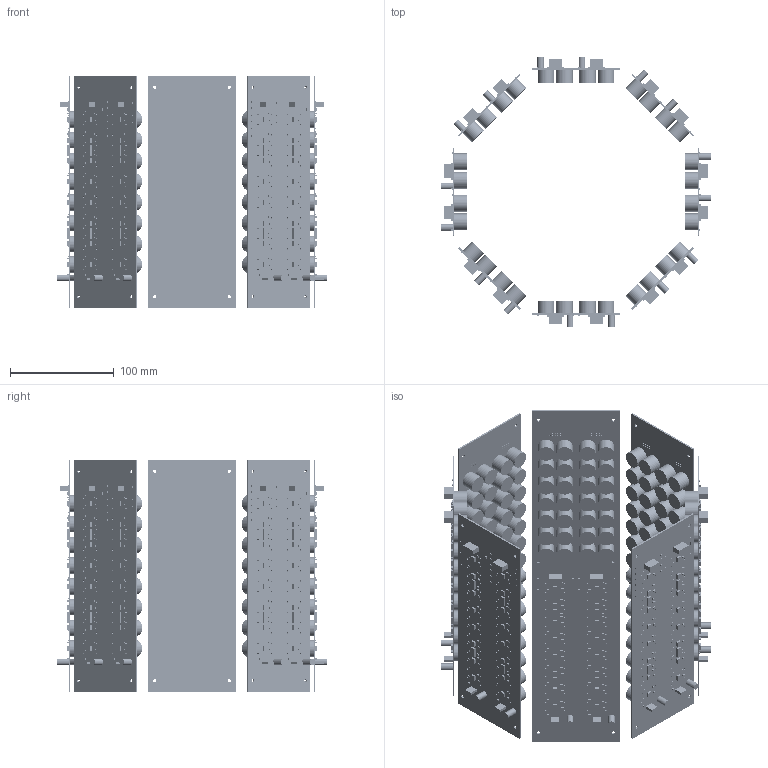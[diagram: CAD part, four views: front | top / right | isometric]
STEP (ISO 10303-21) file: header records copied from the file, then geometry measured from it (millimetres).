
FILE_DESCRIPTION(('Open CASCADE Model'),'2;1');
FILE_NAME('Open CASCADE Shape Model','2026-10-06T14:39:53',('Author'),( 'Open CASCADE'),'Open CASCADE STEP processor 7.9','Open CASCADE 7.9' ,'Unknown');
FILE_SCHEMA(('AUTOMOTIVE_DESIGN { 1 0 10303 214 1 1 1 1 }'));
Length unit declared in the file: millimetre
Products named in the file (19): tunnel8_32_r1; face0; pcb32_r1; C1; C19; J1; J3; Q1; R1; T1; U1; U10; face1; face2; face3; face4; face5; face6; face7
Assembly tree (1200 placements, depth 3):
  tunnel8_32_r1
    face0
      pcb32_r1
      C1  x38
      C19  x2
      J1  x2
      J3  x2
      Q1  x2
      R1  x50
      T1  x32
      U1  x4
      U10  x16
    face1
      pcb32_r1
      C1  x38
      C19  x2
      J1  x2
      J3  x2
      Q1  x2
      R1  x50
      T1  x32
      U1  x4
      U10  x16
    face2
      pcb32_r1
      C1  x38
      C19  x2
      J1  x2
      J3  x2
      Q1  x2
      R1  x50
      T1  x32
      U1  x4
      U10  x16
    face3
      pcb32_r1
      C1  x38
      C19  x2
      J1  x2
      J3  x2
      Q1  x2
      R1  x50
      T1  x32
      U1  x4
      U10  x16
    face4
      pcb32_r1
      C1  x38
      C19  x2
      J1  x2
      J3  x2
      Q1  x2
      R1  x50
      T1  x32
      U1  x4
      U10  x16
    face5
      pcb32_r1
      C1  x38
      C19  x2
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Bounding box: 260.2 x 260.2 x 224 mm (x, y, z)
Volume: 907053.5 mm3; surface area: 611047.1 mm2
Topology: 1192 solids, 1192 shells, 7120 faces, 14208 edges, 9472 vertices
Faces by surface type: plane 6064, cylinder 1056
Full cylindrical faces by diameter (mm): 0.8 x32, 1 x208, 1.5 x512, 3.2 x32, 6.3 x16, 16 x256
Entity records: 20747 total; most frequent: CARTESIAN_POINT 3981, DIRECTION 3898, AXIS2_PLACEMENT_3D 1553, PRODUCT_DEFINITION_SHAPE 1219, CONTEXT_DEPENDENT_SHAPE_REPRESENTATION 1200, ITEM_DEFINED_TRANSFORMATION 1200, NEXT_ASSEMBLY_USAGE_OCCURRENCE 1200, ORIENTED_EDGE 792
